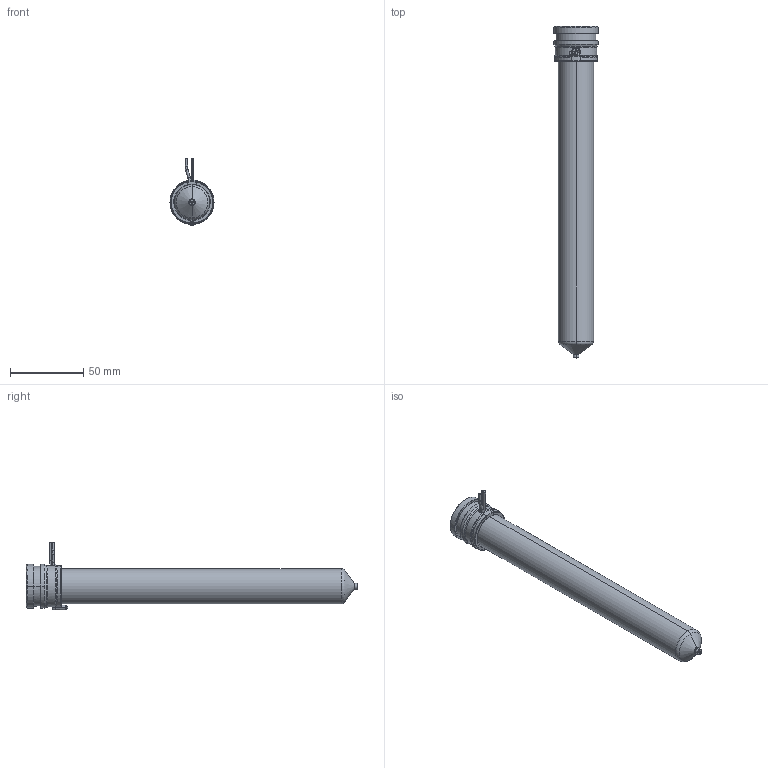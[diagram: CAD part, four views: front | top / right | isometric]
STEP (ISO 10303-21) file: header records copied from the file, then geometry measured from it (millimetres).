
FILE_DESCRIPTION((''),'2;1');
FILE_NAME('MPN-10-29-VP4-206-A','2026-02-05T12:43:48',('UPTIO'),('Thermoplay S.p.A.'),'CREO PARAMETRIC BY PTC INC, 2023494','CREO PARAMETRIC BY PTC INC, 2023494','');
FILE_SCHEMA(('CONFIG_CONTROL_DESIGN','SHAPE_APPEARANCE_LAYERS_GROUPS'));
Length unit declared in the file: millimetre
Products named in the file (1): MPN-10-29-VP4-206-A
Bounding box: 30 x 226.1 x 46 mm (x, y, z)
Volume: 69855.9 mm3; surface area: 71198.7 mm2
Topology: 2 solids, 3 shells, 580 faces, 1542 edges, 960 vertices
Faces by surface type: cylinder 180, plane 153, bspline 98, torus 70, cone 68, sphere 7, extrusion 4
Entity records: 32796 total; most frequent: CARTESIAN_POINT 15887, ORIENTED_EDGE 3072, DIRECTION 2691, EDGE_CURVE 1536, AXIS2_PLACEMENT_3D 1063, VERTEX_POINT 960, EDGE_LOOP 608, CIRCLE 584
